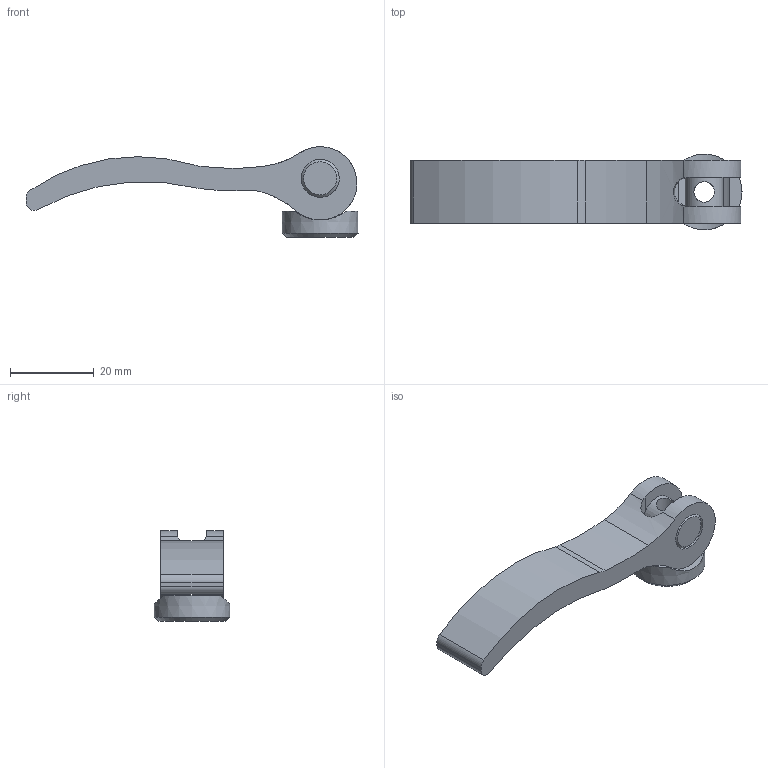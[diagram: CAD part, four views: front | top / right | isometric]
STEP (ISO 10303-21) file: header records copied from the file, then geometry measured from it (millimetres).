
FILE_DESCRIPTION(('STEP AP203'), '1');
FILE_NAME('À00360.11790620', '', ('UNSPECIFIED'), ('UNSPECIFIED'), 'C3D Converter', 'C3D Toolkit', '');
FILE_SCHEMA(('CONFIG_CONTROL_DESIGN'));
Length unit declared in the file: millimetre
Products named in the file (4): А00360.79.03; А00360.79.02; А00360.79.01
Assembly tree (3 placements, depth 2):
  (unnamed)
    А00360.79.03
    А00360.79.02
    А00360.79.01
Bounding box: 79.33 x 18.07 x 21.62 mm (x, y, z)
Volume: 8983.1 mm3; surface area: 5525.2 mm2
Topology: 3 solids, 3 shells, 34 faces, 87 edges, 57 vertices
Faces by surface type: cylinder 20, plane 10, cone 4
Full cylindrical faces by diameter (mm): 4.917 x1, 6.6 x1, 9.1 x3
Entity records: 1856 total; most frequent: CARTESIAN_POINT 834, DIRECTION 183, ORIENTED_EDGE 156, AXIS2_PLACEMENT_3D 80, EDGE_CURVE 78, VERTEX_POINT 57, EDGE_LOOP 49, CIRCLE 42
